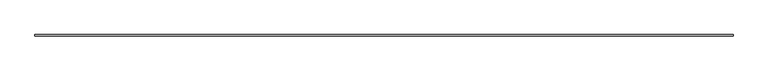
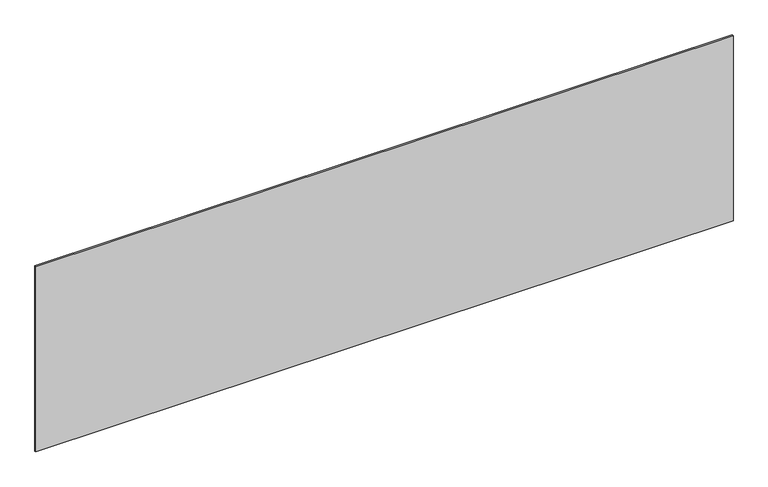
"""IFC4 building model written with IfcOpenShell, lengths in millimetres: plate geometry, システム パネル : 標準."""

from ifc_helpers import new_model, si_unit, origin, origin_with_axes, place, context, project, spatial, polyline, outline, extrude, source, transform, mapped, element, save


def plate_1e398689(model_context):
    return source(origin(), model_context, "Body", "SweptSolid", [
        extrude(outline(polyline([(2281.6666667, -5.0), (-2281.6666667, -5.0), (-2281.6666667, 5.0), (2281.6666667, 5.0), (2281.6666667, -5.0)])), origin_with_axes(), (0.0, 0.0, 1.0), 1281.207091),
    ])


if __name__ == "__main__":
    model = new_model("IFC4")
    model_context = context("Model", 3, world=origin())
    ifc_project = project(units=[si_unit("LENGTHUNIT", "METRE", prefix="MILLI")], contexts=[model_context])
    site = spatial("IfcSite", under=ifc_project)
    building = spatial("IfcBuilding", under=site)
    placement = place(None, origin())
    plate_shape = plate_1e398689(model_context)
    element("IfcPlate", 1, ObjectType="システム パネル : 標準", at=placement, inside=building, context=model_context, shape_type="MappedRepresentation", body=[
        mapped(plate_shape, transform((0.0, 0.0, 0.0), x_axis=(1.0, 0.0, 0.0), y_axis=(0.0, 1.0, 0.0), z_axis=(0.0, 0.0, 1.0))),
    ])
    save(model, "model.ifc")
